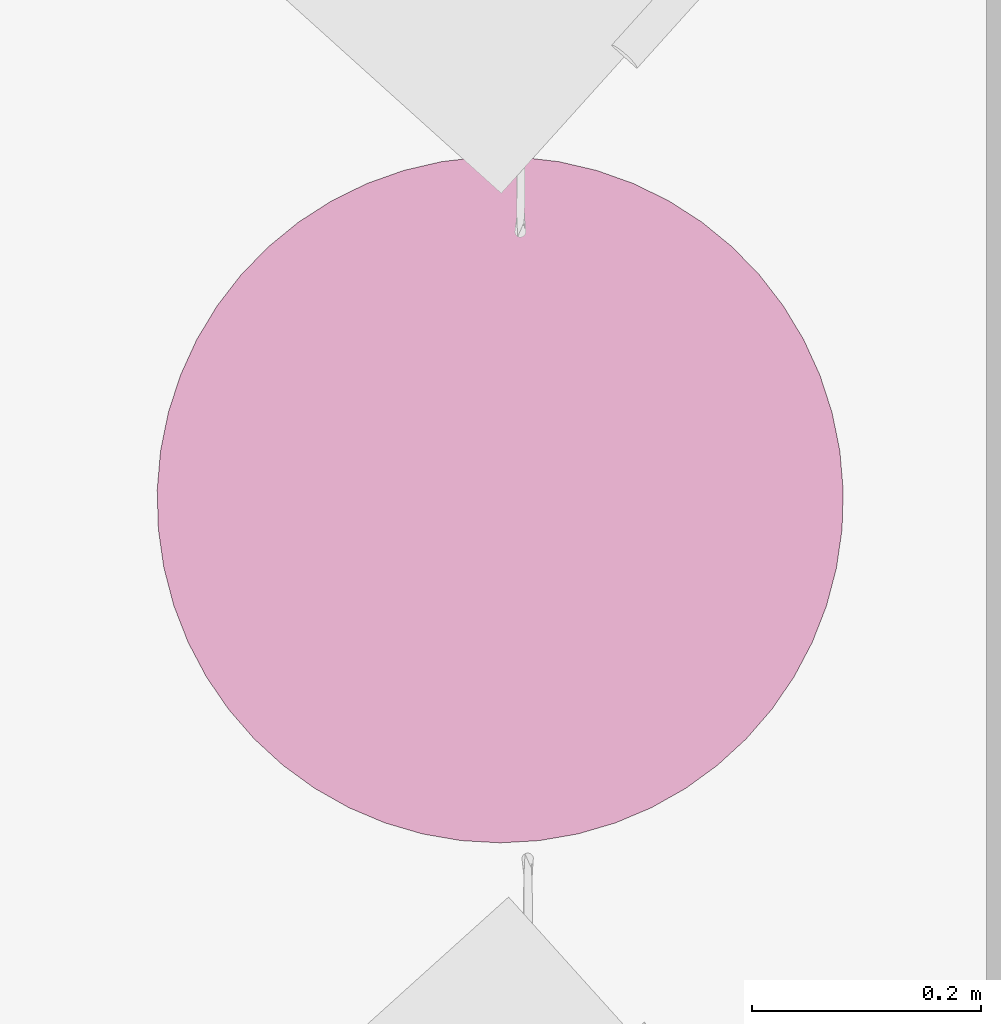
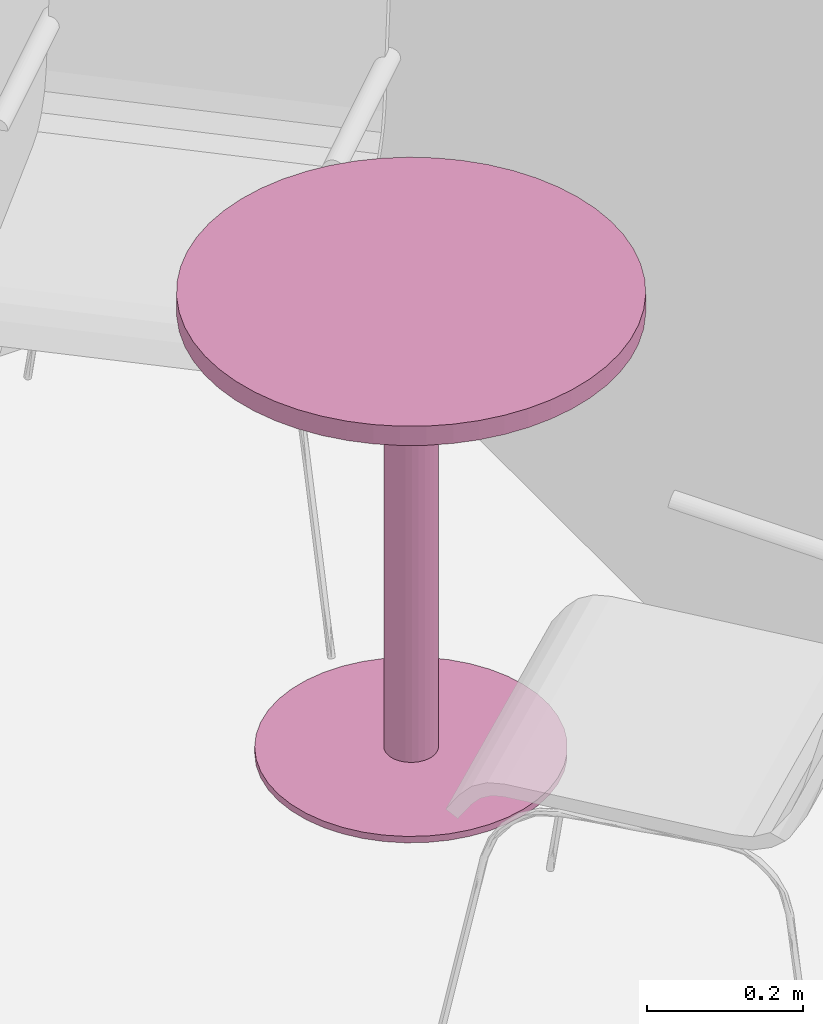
# One storey, part 51 of 58: 1 furnishing.
"""IFC2X3 building model written with IfcOpenShell, lengths in millimetres."""

from ifc_helpers import new_model, entity, si_unit, converted_unit, derived_unit, direction, frame, frame_2d, origin, place, context, subcontext, project, spatial, circle, extrude, source, transform, mapped, material, material_list, type_object, type_shapes, element, save


model = new_model("IFC2X3")

# Units and contexts
model_context = context("Model", 3, precision=0.01, world=origin(), true_north=direction((0.7716245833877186, 0.6360782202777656)))
body_context = subcontext(model_context, "Body", "Model", "MODEL_VIEW")
ifc_project = project(units=[si_unit("LENGTHUNIT", "METRE", prefix="MILLI"), si_unit("AREAUNIT", "SQUARE_METRE"), converted_unit("PLANEANGLEUNIT", "DEGREE", entity("IfcPlaneAngleMeasure", 0.017453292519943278), si_unit("PLANEANGLEUNIT", "RADIAN"), dimensions=[0, 0, 0, 0, 0, 0, 0]), derived_unit("THERMALTRANSMITTANCEUNIT", [(si_unit("MASSUNIT", "GRAM", prefix="KILO"), 1), (si_unit("THERMODYNAMICTEMPERATUREUNIT", "KELVIN"), -1), (si_unit("TIMEUNIT", "SECOND"), -3)])], contexts=[model_context])

# Site, building, storey, space
site_placement = place(None, origin())
site = spatial("IfcSite", under=ifc_project, at=site_placement, Name="Default", CompositionType="ELEMENT")
building_placement = place(site_placement, origin())
building = spatial("IfcBuilding", under=site, at=building_placement, CompositionType="ELEMENT")
storey_placement = place(building_placement, frame((0.0, 0.0, 31140.0)))
storey = spatial("IfcBuildingStorey", under=building, at=storey_placement, Name="PLAN U1", CompositionType="ELEMENT", Elevation=31140.000000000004)
space_placement = place(storey_placement, origin())
space = spatial("IfcSpace", under=storey, at=space_placement, Name="B5-322", CompositionType="ELEMENT", InteriorOrExteriorSpace="INTERNAL")

# Furnishing
ifc_material_1 = material(Name="Plate")
ifc_material_2 = material(Name="Metall")
ifc_material_list = material_list([ifc_material_1, ifc_material_2])
furniture_type = type_object("IfcFurnitureType", Name="Bord-rundt:Bord, Ø600", AssemblyPlace="NOTDEFINED", material=ifc_material_list)
shared_shape = source(origin(), body_context, "Body", "SweptSolid", [
    extrude(circle(Radius=300.0, at=frame_2d((0.0, -4.846633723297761e-13), x_axis=(1.0, 0.0))), frame((0.0, 0.0, 690.0)), (0.0, 0.0, 1.0), 29.99999999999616),
    extrude(circle(Radius=35.0, at=frame_2d((-4.3957322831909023e-16, -5.6544060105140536e-14), x_axis=(1.0, 0.0))), frame((0.0, 0.0, 10.0)), (0.0, 0.0, 1.0), 680.0000000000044),
    extrude(circle(Radius=200.0, at=frame_2d((-8.4218585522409e-15, -3.2310891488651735e-13), x_axis=(1.0, 0.0))), origin(), (0.0, 0.0, 1.0), 10.000000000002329),
])
type_shapes(furniture_type, [shared_shape])
furnishing_placement = place(space_placement, frame((274907.924446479, 56486.33486585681, 0.0), z_axis=(0.0, 0.0, 1.0), x_axis=(0.0, -1.0, 0.0)))
element("IfcFurnishingElement", 1, at=furnishing_placement, inside=space, type_object=furniture_type, material=ifc_material_list, Name="Bord-rundt:Bord, Ø600", ObjectType="Bord-rundt:Bord, Ø600", context=body_context, shape_type="MappedRepresentation", body=[
    mapped(shared_shape, transform((0.0, 0.0, 0.0), scale=1.0)),
])

save(model, "model.ifc")
